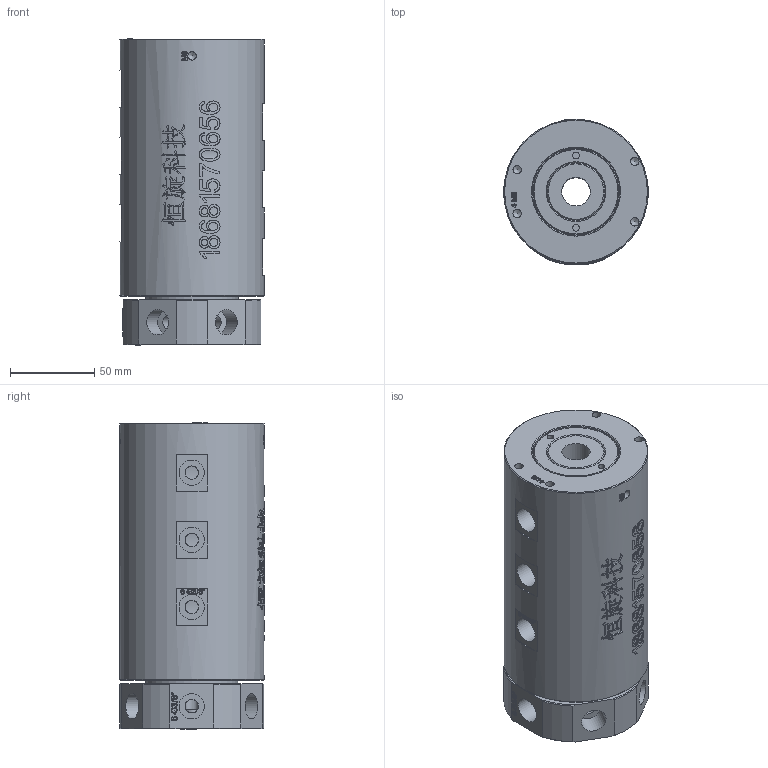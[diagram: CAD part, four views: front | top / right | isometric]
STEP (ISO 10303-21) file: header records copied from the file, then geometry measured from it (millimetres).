
FILE_DESCRIPTION(/* description */ (''),/* implementation_level */ '2;1');
FILE_NAME(/* name */ 'HQ0603-3D模型.stp',/* time_stamp */ '2025-11-20T10:51:23+08:00',/* author */ (''),/* organization */ (''),/* preprocessor_version */ 'ST-DEVELOPER v16.7',/* originating_system */ 'SIEMENS PLM Software NX 12.0',/* authorisation */ '');
FILE_SCHEMA (('AUTOMOTIVE_DESIGN { 1 0 10303 214 3 1 1 1 }'));
Products named in the file (1): Admi24F87B2B00qw
Bounding box: 86 x 86.37 x 182.4 mm (x, y, z)
Surface area: 97231.4 mm2
Topology: 1 solids, 2 shells, 1269 faces, 3468 edges, 2309 vertices
Faces by surface type: extrusion 647, plane 422, cylinder 103, bspline 54, cone 43
Full cylindrical faces by diameter (mm): 4 x2, 5 x10, 8 x18, 8.4 x6, 8.5 x6, 15 x12, 17 x1, 33 x1, 33.5 x1, 44 x1, 51 x1, 52 x1, 55 x1, 65 x1, 86 x1
Entity records: 48279 total; most frequent: CARTESIAN_POINT 21614, ORIENTED_EDGE 6620, EDGE_CURVE 3310, B_SPLINE_CURVE_WITH_KNOTS 3145, DIRECTION 2965, VERTEX_POINT 2250, EDGE_LOOP 1474, ADVANCED_FACE 1266
